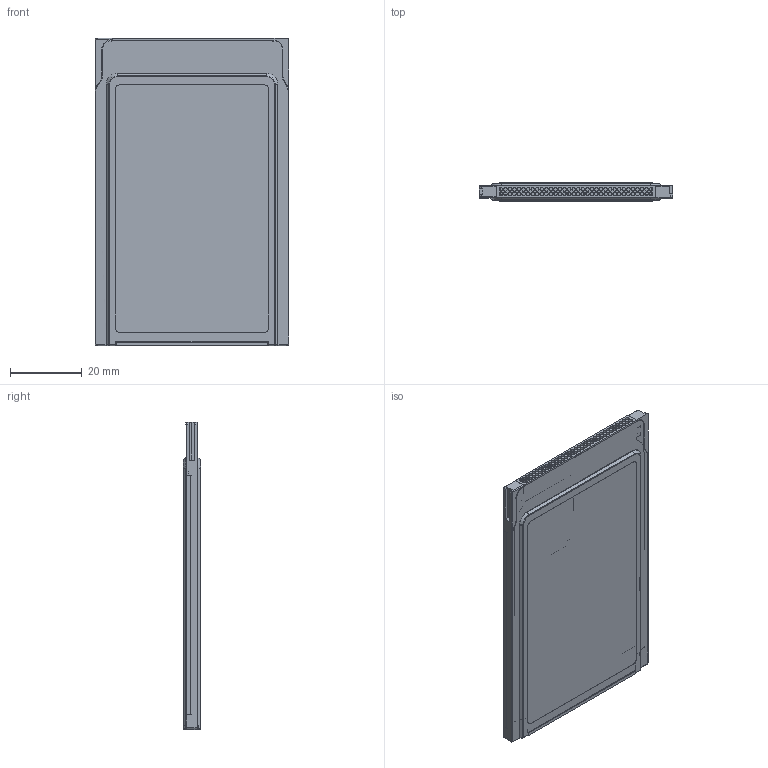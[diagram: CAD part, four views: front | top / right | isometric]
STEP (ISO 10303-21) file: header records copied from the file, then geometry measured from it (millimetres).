
FILE_DESCRIPTION((''),'2;1');
FILE_NAME('CU_PCMCIA-4050','2010-01-08T',('jjorden'),(''),'PRO/ENGINEER BY PARAMETRIC TECHNOLOGY CORPORATION, 2006080','PRO/ENGINEER BY PARAMETRIC TECHNOLOGY CORPORATION, 2006080','');
FILE_SCHEMA(('CONFIG_CONTROL_DESIGN'));
Length unit declared in the file: inch
Products named in the file (1): CU_PCMCIA-4050
Bounding box: 54 x 5.01 x 85.6 mm (x, y, z)
Volume: 4476.4 mm3; surface area: 30211.8 mm2
Topology: 2 solids, 3 shells, 1592 faces, 4130 edges, 2440 vertices
Faces by surface type: plane 1194, cylinder 322, torus 38, extrusion 20, cone 10, bspline 8
Entity records: 51487 total; most frequent: CARTESIAN_POINT 13974, ORIENTED_EDGE 8260, DIRECTION 6993, EDGE_CURVE 4130, VECTOR 2891, LINE 2871, VERTEX_POINT 2440, AXIS2_PLACEMENT_3D 2051
